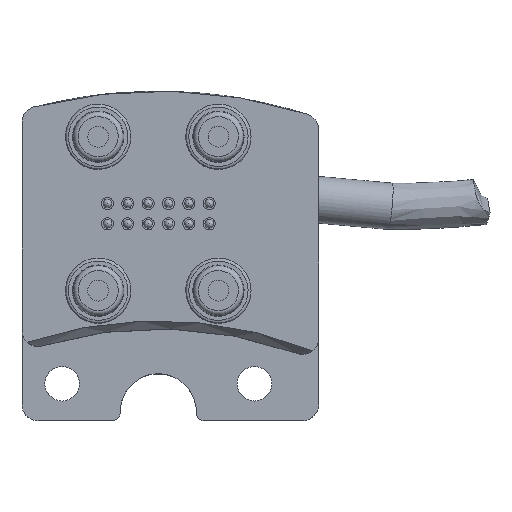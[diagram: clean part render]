
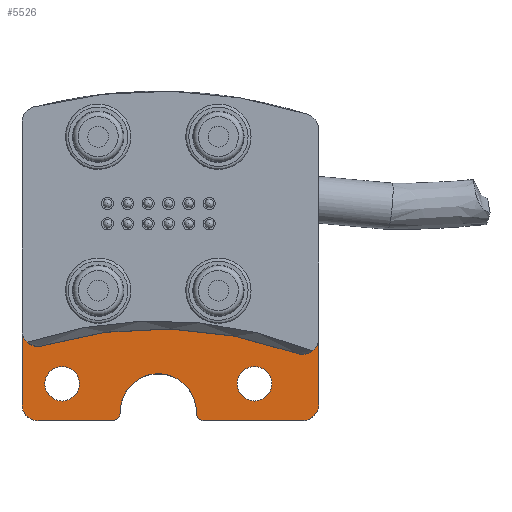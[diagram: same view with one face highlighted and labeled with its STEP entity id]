
A CAD part, top view. The second image highlights one B-rep face of the part: STEP entity #5526.
In plain terms, the highlighted planar face has unit normal (0, 0, 1).
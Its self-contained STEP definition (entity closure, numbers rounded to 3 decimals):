
#63=LINE('',#14005,#208);
#64=LINE('',#14013,#209);
#65=LINE('',#14017,#210);
#66=LINE('',#14024,#211);
#208=VECTOR('',#7059,10.);
#209=VECTOR('',#7066,10.);
#210=VECTOR('',#7069,10.);
#211=VECTOR('',#7076,10.);
#419=PLANE('',#6082);
#568=FACE_BOUND('',#1450,.T.);
#569=FACE_BOUND('',#1451,.T.);
#1005=FACE_OUTER_BOUND('',#1449,.T.);
#1449=EDGE_LOOP('',(#4026,#4027,#4028,#4029,#4030,#4031,#4032,#4033,#4034,
#4035,#4036,#4037));
#1450=EDGE_LOOP('',(#4038));
#1451=EDGE_LOOP('',(#4039));
#1965=CIRCLE('',#6083,2.);
#1966=CIRCLE('',#6084,2.);
#1967=CIRCLE('',#6085,50.35);
#1968=CIRCLE('',#6086,2.);
#1969=CIRCLE('',#6087,2.);
#1970=CIRCLE('',#6088,1.);
#1971=CIRCLE('',#6089,4.75);
#1972=CIRCLE('',#6090,1.);
#1973=CIRCLE('',#6091,2.15);
#1974=CIRCLE('',#6092,2.15);
#2567=VERTEX_POINT('',#14001);
#2568=VERTEX_POINT('',#14002);
#2569=VERTEX_POINT('',#14004);
#2570=VERTEX_POINT('',#14006);
#2571=VERTEX_POINT('',#14008);
#2572=VERTEX_POINT('',#14010);
#2573=VERTEX_POINT('',#14012);
#2574=VERTEX_POINT('',#14014);
#2575=VERTEX_POINT('',#14016);
#2576=VERTEX_POINT('',#14018);
#2577=VERTEX_POINT('',#14020);
#2578=VERTEX_POINT('',#14022);
#2579=VERTEX_POINT('',#14025);
#2580=VERTEX_POINT('',#14027);
#3141=EDGE_CURVE('',#2567,#2568,#1965,.T.);
#3142=EDGE_CURVE('',#2568,#2569,#63,.T.);
#3143=EDGE_CURVE('',#2569,#2570,#1966,.F.);
#3144=EDGE_CURVE('',#2570,#2571,#1967,.T.);
#3145=EDGE_CURVE('',#2571,#2572,#1968,.F.);
#3146=EDGE_CURVE('',#2573,#2572,#64,.T.);
#3147=EDGE_CURVE('',#2573,#2574,#1969,.T.);
#3148=EDGE_CURVE('',#2574,#2575,#65,.T.);
#3149=EDGE_CURVE('',#2575,#2576,#1970,.T.);
#3150=EDGE_CURVE('',#2577,#2576,#1971,.T.);
#3151=EDGE_CURVE('',#2577,#2578,#1972,.T.);
#3152=EDGE_CURVE('',#2578,#2567,#66,.T.);
#3153=EDGE_CURVE('',#2579,#2579,#1973,.T.);
#3154=EDGE_CURVE('',#2580,#2580,#1974,.T.);
#4026=ORIENTED_EDGE('',*,*,#3141,.T.);
#4027=ORIENTED_EDGE('',*,*,#3142,.T.);
#4028=ORIENTED_EDGE('',*,*,#3143,.T.);
#4029=ORIENTED_EDGE('',*,*,#3144,.T.);
#4030=ORIENTED_EDGE('',*,*,#3145,.T.);
#4031=ORIENTED_EDGE('',*,*,#3146,.F.);
#4032=ORIENTED_EDGE('',*,*,#3147,.T.);
#4033=ORIENTED_EDGE('',*,*,#3148,.T.);
#4034=ORIENTED_EDGE('',*,*,#3149,.T.);
#4035=ORIENTED_EDGE('',*,*,#3150,.F.);
#4036=ORIENTED_EDGE('',*,*,#3151,.T.);
#4037=ORIENTED_EDGE('',*,*,#3152,.T.);
#4038=ORIENTED_EDGE('',*,*,#3153,.F.);
#4039=ORIENTED_EDGE('',*,*,#3154,.F.);
#5526=ADVANCED_FACE('',(#1005,#568,#569),#419,.F.);
#6082=AXIS2_PLACEMENT_3D('',#14000,#7055,#7056);
#6083=AXIS2_PLACEMENT_3D('',#14003,#7057,#7058);
#6084=AXIS2_PLACEMENT_3D('',#14007,#7060,#7061);
#6085=AXIS2_PLACEMENT_3D('',#14009,#7062,#7063);
#6086=AXIS2_PLACEMENT_3D('',#14011,#7064,#7065);
#6087=AXIS2_PLACEMENT_3D('',#14015,#7067,#7068);
#6088=AXIS2_PLACEMENT_3D('',#14019,#7070,#7071);
#6089=AXIS2_PLACEMENT_3D('',#14021,#7072,#7073);
#6090=AXIS2_PLACEMENT_3D('',#14023,#7074,#7075);
#6091=AXIS2_PLACEMENT_3D('',#14026,#7077,#7078);
#6092=AXIS2_PLACEMENT_3D('',#14028,#7079,#7080);
#7055=DIRECTION('center_axis',(0.,0.,
-1.));
#7056=DIRECTION('ref_axis',(-1.,0.,0.));
#7057=DIRECTION('center_axis',(0.,0.,
1.));
#7058=DIRECTION('ref_axis',(0.707,-0.707,0.));
#7059=DIRECTION('',(0.,1.,0.));
#7060=DIRECTION('center_axis',(0.,0.,
1.));
#7061=DIRECTION('ref_axis',(0.573,-0.82,0.));
#7062=DIRECTION('center_axis',(0.,0.,
1.));
#7063=DIRECTION('ref_axis',(1.,0.,0.));
#7064=DIRECTION('center_axis',(0.,0.,
1.));
#7065=DIRECTION('ref_axis',(-0.597,-0.802,0.));
#7066=DIRECTION('',(0.,1.,0.));
#7067=DIRECTION('center_axis',(0.,0.,
1.));
#7068=DIRECTION('ref_axis',(-0.707,-0.707,0.));
#7069=DIRECTION('',(1.,0.,0.));
#7070=DIRECTION('center_axis',(0.,0.,
1.));
#7071=DIRECTION('ref_axis',(0.713,-0.701,0.));
#7072=DIRECTION('center_axis',(0.,0.,
1.));
#7073=DIRECTION('ref_axis',(1.,0.,0.));
#7074=DIRECTION('center_axis',(0.,0.,
1.));
#7075=DIRECTION('ref_axis',(-0.713,-0.701,0.));
#7076=DIRECTION('',(1.,0.,0.));
#7077=DIRECTION('center_axis',(0.,0.,
1.));
#7078=DIRECTION('ref_axis',(1.,0.,0.));
#7079=DIRECTION('center_axis',(0.,0.,
1.));
#7080=DIRECTION('ref_axis',(1.,0.,0.));
#14000=CARTESIAN_POINT('Origin',(0.,0.,
23.652));
#14001=CARTESIAN_POINT('',(18.,38.9,23.652));
#14002=CARTESIAN_POINT('',(20.,40.9,23.652));
#14003=CARTESIAN_POINT('Origin',(18.,40.9,23.652));
#14004=CARTESIAN_POINT('',(20.,49.158,23.652));
#14005=CARTESIAN_POINT('',(20.,19.45,23.652));
#14006=CARTESIAN_POINT('',(17.312,47.28,23.652));
#14007=CARTESIAN_POINT('Origin',(18.,49.158,23.652));
#14008=CARTESIAN_POINT('',(-14.427,48.239,23.652));
#14009=CARTESIAN_POINT('Origin',(0.,0.,
23.652));
#14010=CARTESIAN_POINT('',(-17.,50.155,23.652));
#14011=CARTESIAN_POINT('Origin',(-15.,50.155,23.652));
#14012=CARTESIAN_POINT('',(-17.,40.9,23.652));
#14013=CARTESIAN_POINT('',(-17.,38.802,23.652));
#14014=CARTESIAN_POINT('',(-15.,38.9,23.652));
#14015=CARTESIAN_POINT('Origin',(-15.,40.9,23.652));
#14016=CARTESIAN_POINT('',(-5.749,38.9,23.652));
#14017=CARTESIAN_POINT('',(-8.5,38.9,23.652));
#14018=CARTESIAN_POINT('',(-4.749,39.917,23.652));
#14019=CARTESIAN_POINT('Origin',(-5.749,39.9,23.652));
#14020=CARTESIAN_POINT('',(4.749,39.917,23.652));
#14021=CARTESIAN_POINT('Origin',(0.,40.,
23.652));
#14022=CARTESIAN_POINT('',(5.749,38.9,23.652));
#14023=CARTESIAN_POINT('Origin',(5.749,39.9,23.652));
#14024=CARTESIAN_POINT('',(-8.5,38.9,23.652));
#14025=CARTESIAN_POINT('',(9.85,43.5,23.652));
#14026=CARTESIAN_POINT('Origin',(12.,43.5,23.652));
#14027=CARTESIAN_POINT('',(-14.15,43.5,23.652));
#14028=CARTESIAN_POINT('Origin',(-12.,43.5,23.652));
